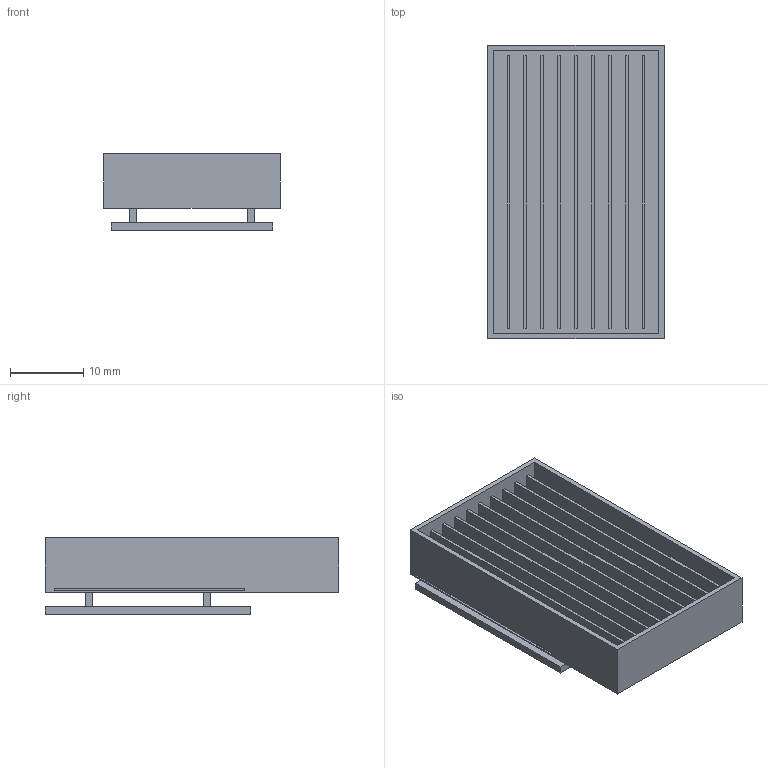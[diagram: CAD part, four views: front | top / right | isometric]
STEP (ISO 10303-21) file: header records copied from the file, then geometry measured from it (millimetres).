
FILE_DESCRIPTION(('Open CASCADE Model'),'2;1');
FILE_NAME('Open CASCADE Shape Model','2026-09-13T17:41:39',('Author'),( 'Open CASCADE'),'Open CASCADE STEP processor 7.8','Open CASCADE 7.8' ,'Unknown');
FILE_SCHEMA(('AUTOMOTIVE_DESIGN { 1 0 10303 214 1 1 1 1 }'));
Length unit declared in the file: millimetre
Products named in the file (1): Open CASCADE STEP translator 7.8 9
Bounding box: 24 x 40 x 10.4 mm (x, y, z)
Volume: 2590.8 mm3; surface area: 9151.5 mm2
Topology: 1 solids, 1 shells, 100 faces, 248 edges, 164 vertices
Faces by surface type: plane 100
Entity records: 6146 total; most frequent: CARTESIAN_POINT 1009, DIRECTION 946, LINE 744, VECTOR 744, ORIENTED_EDGE 496, PCURVE 496, DEFINITIONAL_REPRESENTATION 496, EDGE_CURVE 248
